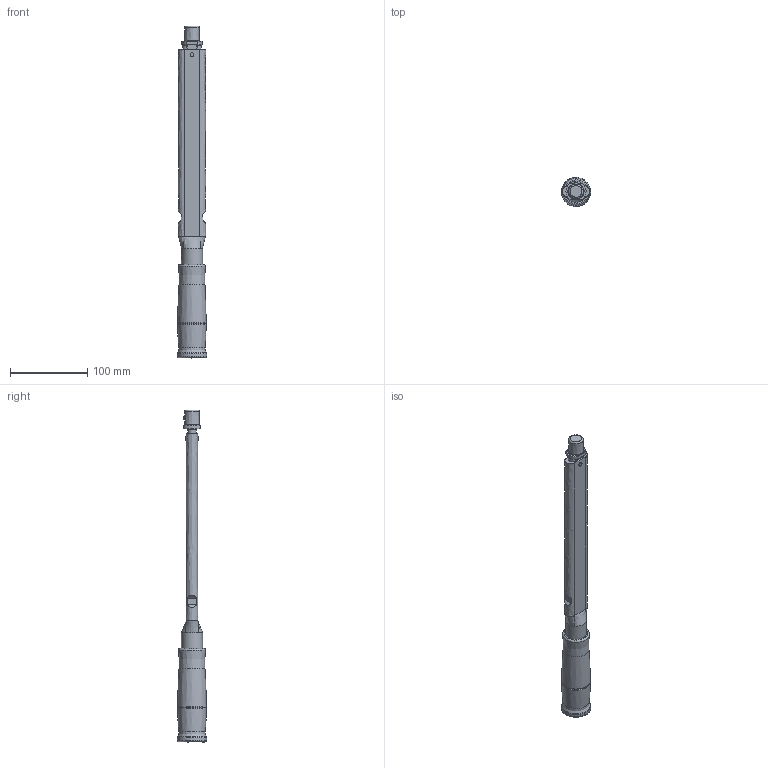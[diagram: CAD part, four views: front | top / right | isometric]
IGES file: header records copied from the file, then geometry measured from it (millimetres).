
Global section: file name: BCSP220NX19D_Shrinkwrap_2; native system: Autodesk Inventor 2018; preprocessor: unknown; author: Q618; date: 20180621.165235; units: millimetre
Bounding box: 38 x 37.93 x 429.5 mm (x, y, z)
Volume: 262289.9 mm3; surface area: 43036.5 mm2
Topology: 3 solids, 3 shells, 89 faces, 231 edges, 157 vertices
Faces by surface type: bspline 89
